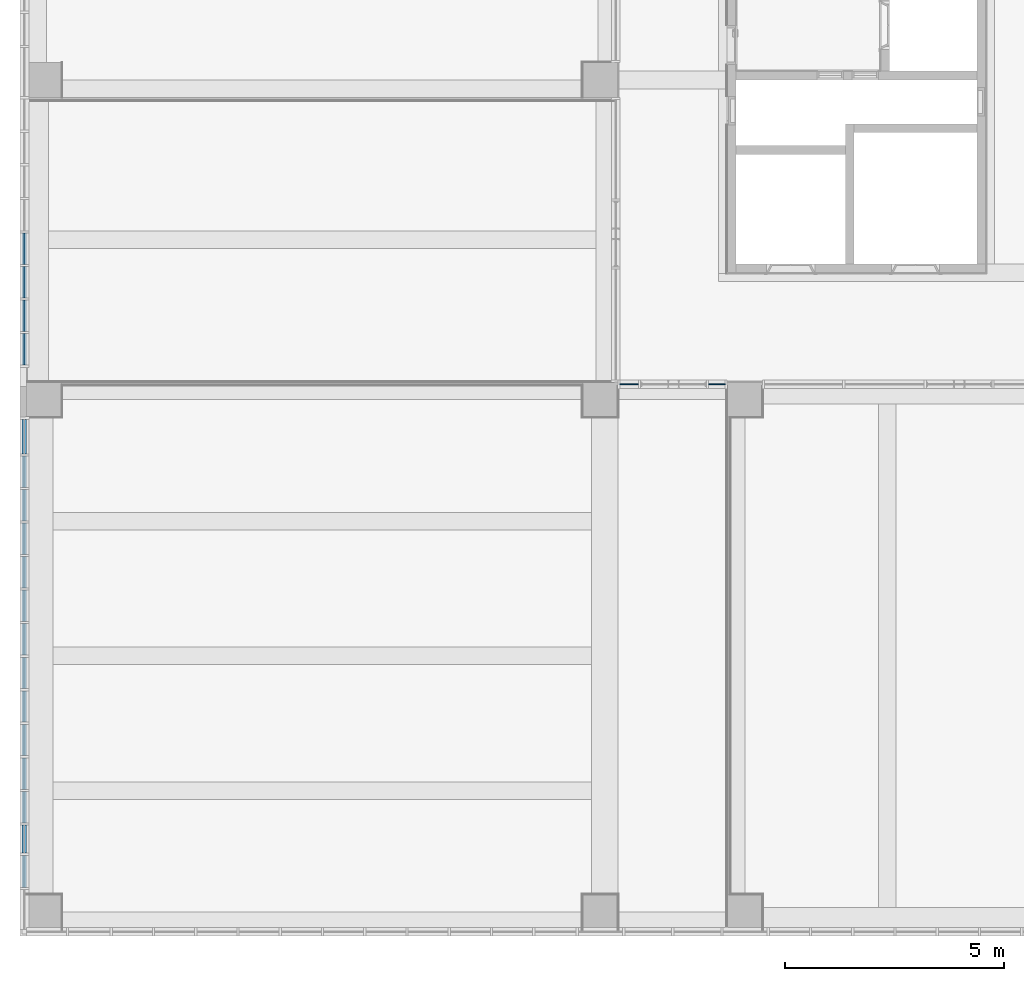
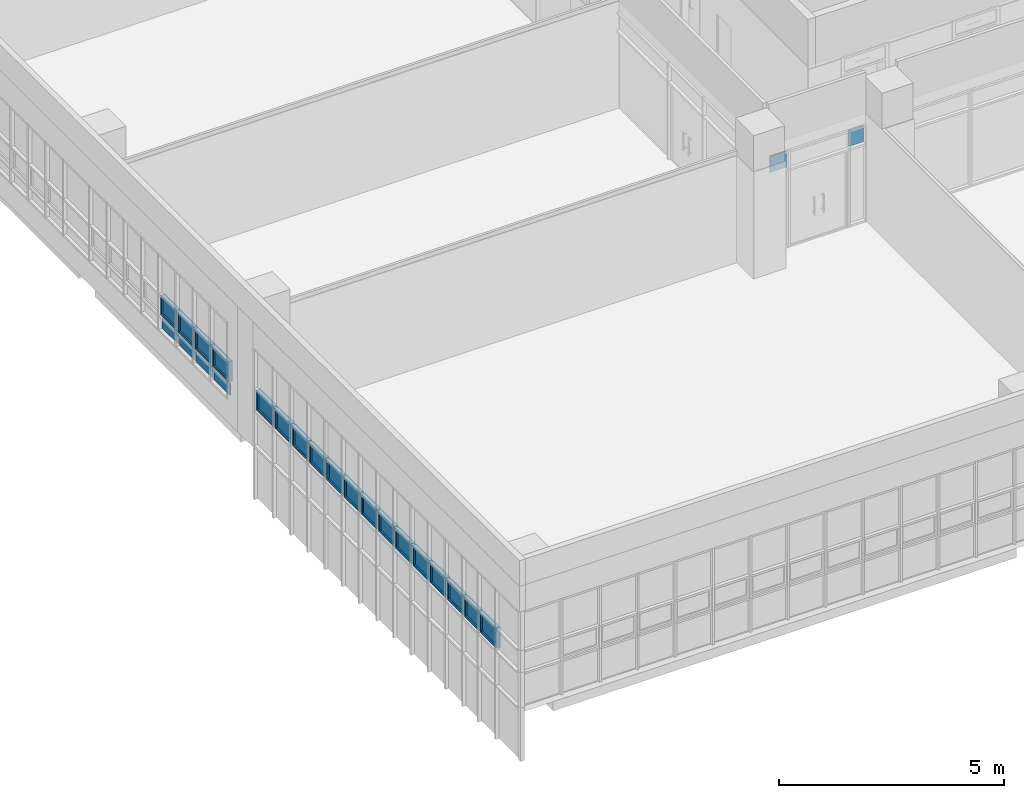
# One storey, part 35 of 81: 24 plates, 3 elements without a shape of their own.
"""IFC2X3 building model written with IfcOpenShell, lengths in millimetres."""

from ifc_helpers import new_model, entity, si_unit, converted_unit, derived_unit, direction, frame, origin, origin_2d_with_axis, place, context, subcontext, project, spatial, polyline, rectangle, outline, extrude, source, transform, mapped, material, material_list, type_object, type_shapes, element, aggregate, save


model = new_model("IFC2X3")

# Units and contexts
model_context = context("Model", 3, precision=0.01, world=origin(), true_north=direction((6.123031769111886e-17, 1.0)))
body_context = subcontext(model_context, "Body", "Model", "MODEL_VIEW")
ifc_project = project(units=[si_unit("LENGTHUNIT", "METRE", prefix="MILLI"), si_unit("AREAUNIT", "SQUARE_METRE"), si_unit("VOLUMEUNIT", "CUBIC_METRE"), converted_unit("PLANEANGLEUNIT", "DEGREE", entity("IfcRatioMeasure", 0.017453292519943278), si_unit("PLANEANGLEUNIT", "RADIAN"), dimensions=[0, 0, 0, 0, 0, 0, 0]), si_unit("MASSUNIT", "GRAM", prefix="KILO"), derived_unit("MASSDENSITYUNIT", [(si_unit("MASSUNIT", "GRAM", prefix="KILO"), 1), (si_unit("LENGTHUNIT", "METRE"), -3)]), derived_unit("MOMENTOFINERTIAUNIT", [(si_unit("LENGTHUNIT", "METRE"), 4)]), si_unit("TIMEUNIT", "SECOND"), si_unit("FREQUENCYUNIT", "HERTZ"), si_unit("THERMODYNAMICTEMPERATUREUNIT", "DEGREE_CELSIUS"), derived_unit("THERMALTRANSMITTANCEUNIT", [(si_unit("MASSUNIT", "GRAM", prefix="KILO"), 1), (si_unit("THERMODYNAMICTEMPERATUREUNIT", "KELVIN"), -1), (si_unit("TIMEUNIT", "SECOND"), -3)]), derived_unit("VOLUMETRICFLOWRATEUNIT", [(si_unit("LENGTHUNIT", "METRE"), 3), (si_unit("TIMEUNIT", "SECOND"), -1)]), derived_unit("MASSFLOWRATEUNIT", [(si_unit("MASSUNIT", "GRAM", prefix="KILO"), 1), (si_unit("TIMEUNIT", "SECOND"), -1)]), derived_unit("ROTATIONALFREQUENCYUNIT", [(si_unit("TIMEUNIT", "SECOND"), -1)]), si_unit("ELECTRICCURRENTUNIT", "AMPERE"), si_unit("ELECTRICVOLTAGEUNIT", "VOLT"), si_unit("POWERUNIT", "WATT"), si_unit("FORCEUNIT", "NEWTON", prefix="KILO"), si_unit("ILLUMINANCEUNIT", "LUX"), si_unit("LUMINOUSFLUXUNIT", "LUMEN"), si_unit("LUMINOUSINTENSITYUNIT", "CANDELA"), derived_unit("USERDEFINED", [(si_unit("MASSUNIT", "GRAM", prefix="KILO"), -1), (si_unit("LENGTHUNIT", "METRE"), -2), (si_unit("TIMEUNIT", "SECOND"), 3), (si_unit("LUMINOUSFLUXUNIT", "LUMEN"), 1)]), derived_unit("SOUNDPOWERUNIT", [(si_unit("MASSUNIT", "GRAM", prefix="KILO"), 1), (si_unit("LENGTHUNIT", "METRE"), 2), (si_unit("TIMEUNIT", "SECOND"), -3)]), derived_unit("SOUNDPRESSUREUNIT", [(si_unit("MASSUNIT", "GRAM", prefix="KILO"), 1), (si_unit("LENGTHUNIT", "METRE"), -1), (si_unit("TIMEUNIT", "SECOND"), -2)]), derived_unit("LINEARVELOCITYUNIT", [(si_unit("LENGTHUNIT", "METRE"), 1), (si_unit("TIMEUNIT", "SECOND"), -1)]), si_unit("PRESSUREUNIT", "PASCAL"), derived_unit("USERDEFINED", [(si_unit("LENGTHUNIT", "METRE"), -2), (si_unit("MASSUNIT", "GRAM", prefix="KILO"), 1), (si_unit("TIMEUNIT", "SECOND"), -2)]), derived_unit("LINEARFORCEUNIT", [(si_unit("MASSUNIT", "GRAM", prefix="KILO"), 1), (si_unit("LENGTHUNIT", "METRE"), 1), (si_unit("TIMEUNIT", "SECOND"), -2), (si_unit("LENGTHUNIT", "METRE"), -1)]), derived_unit("PLANARFORCEUNIT", [(si_unit("MASSUNIT", "GRAM", prefix="KILO"), 1), (si_unit("LENGTHUNIT", "METRE"), 1), (si_unit("TIMEUNIT", "SECOND"), -2), (si_unit("LENGTHUNIT", "METRE"), -2)])], contexts=[model_context])

# Site, building, storey
site_placement = place(None, frame((-14167.972527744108, -657.2125860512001, 0.0)))
site = spatial("IfcSite", under=ifc_project, at=site_placement, Name="Default", CompositionType="ELEMENT")
building_placement = place(site_placement, origin())
building = spatial("IfcBuilding", under=site, at=building_placement, Name="Sample Building", CompositionType="ELEMENT")
storey_placement = place(building_placement, frame((0.0, 0.0, 13400.0)))
storey = spatial("IfcBuildingStorey", under=building, at=storey_placement, Name="지상 4층", CompositionType="ELEMENT", Elevation=13400.00000000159)

# Curtain wall, plates
curtain_wall_type = type_object("IfcCurtainWallType", Name="커튼월:CW112-스테인리스 스틸 커튼월", PredefinedType="NOTDEFINED")
curtain_wall_1_placement = place(storey_placement, frame((0.0, 0.0, -13400.0)))
curtain_wall_1 = element("IfcCurtainWall", 1, at=curtain_wall_1_placement, inside=storey, type_object=curtain_wall_type, Name="커튼월:CW112-스테인리스 스틸 커튼월", ObjectType="커튼월:CW112-스테인리스 스틸 커튼월")
ifc_material_1 = material(Name="KBIMS-유리")
ifc_material_2 = material(Name="KBIMS-알루미늄")
ifc_material_list_1 = material_list([ifc_material_1, ifc_material_2])
ifc_material_list_2 = material_list([ifc_material_1, ifc_material_2])
plate_type_1 = type_object("IfcPlateType", Name="CW410-프로젝트 창:CW410-프로젝트 창 (하부개폐)", PredefinedType="CURTAIN_PANEL", material=ifc_material_list_2)
shared_shape_1 = source(origin(), body_context, "Body", "SweptSolid", [
    extrude(rectangle(XDim=616.0000000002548, YDim=23.999999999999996, at=origin_2d_with_axis()), frame((0.0, -0.04999999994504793, 50.0), z_axis=(0.0, 0.0, 1.0), x_axis=(-1.0, 0.0, 0.0)), (0.0, 0.0, 1.0), 450.0000000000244),
    extrude(outline(polyline([(-358.0, -275.0), (358.0, -275.0), (358.0, 275.0), (-358.0, 275.0), (-358.0, -275.0)]), holes=[polyline([(-308.0, -225.0), (-308.0, 225.0), (308.0, 225.0), (308.0, -225.0), (-308.0, -225.0)])]), frame((0.0, -50.04999999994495, 275.0), z_axis=(0.0, 1.0, 0.0), x_axis=(1.0, 0.0, 0.0)), (0.0, 0.0, 1.0), 99.99999999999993),
])
type_shapes(plate_type_1, [shared_shape_1])
plate_1_placement = place(curtain_wall_1_placement, frame((14017.955105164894, 11012.81770709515, 14425.0), z_axis=(0.0, 0.0, 1.0), x_axis=(0.0, -1.0, 0.0)))
plate_1 = element("IfcPlate", 2, at=plate_1_placement, type_object=plate_type_1, material=ifc_material_list_1, Name="CW410-프로젝트 창:CW410-프로젝트 창 (하부개폐)", ObjectType="CW410-프로젝트 창:CW410-프로젝트 창 (하부개폐)", context=body_context, shape_type="MappedRepresentation", body=[
    mapped(shared_shape_1, transform((0.0, 0.0, 0.0), scale=1.0)),
])
ifc_material_list_3 = material_list([ifc_material_1, ifc_material_2])
plate_2_placement = place(curtain_wall_1_placement, frame((14017.955105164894, 10246.817707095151, 14425.0), z_axis=(0.0, 0.0, 1.0), x_axis=(0.0, -1.0, 0.0)))
plate_2 = element("IfcPlate", 3, at=plate_2_placement, type_object=plate_type_1, material=ifc_material_list_3, Name="CW410-프로젝트 창:CW410-프로젝트 창 (하부개폐)", ObjectType="CW410-프로젝트 창:CW410-프로젝트 창 (하부개폐)", context=body_context, shape_type="MappedRepresentation", body=[
    mapped(shared_shape_1, transform((0.0, 0.0, 0.0), scale=1.0)),
])
ifc_material_list_4 = material_list([ifc_material_1, ifc_material_2])
plate_3_placement = place(curtain_wall_1_placement, frame((14017.95510516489, 9480.817707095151, 14425.0), z_axis=(0.0, 0.0, 1.0), x_axis=(0.0, -1.0, 0.0)))
plate_3 = element("IfcPlate", 4, at=plate_3_placement, type_object=plate_type_1, material=ifc_material_list_4, Name="CW410-프로젝트 창:CW410-프로젝트 창 (하부개폐)", ObjectType="CW410-프로젝트 창:CW410-프로젝트 창 (하부개폐)", context=body_context, shape_type="MappedRepresentation", body=[
    mapped(shared_shape_1, transform((0.0, 0.0, 0.0), scale=1.0)),
])
ifc_material_list_5 = material_list([ifc_material_1, ifc_material_2])
plate_4_placement = place(curtain_wall_1_placement, frame((14017.95510516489, 8714.817707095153, 14425.0), z_axis=(0.0, 0.0, 1.0), x_axis=(0.0, -1.0, 0.0)))
plate_4 = element("IfcPlate", 5, at=plate_4_placement, type_object=plate_type_1, material=ifc_material_list_5, Name="CW410-프로젝트 창:CW410-프로젝트 창 (하부개폐)", ObjectType="CW410-프로젝트 창:CW410-프로젝트 창 (하부개폐)", context=body_context, shape_type="MappedRepresentation", body=[
    mapped(shared_shape_1, transform((0.0, 0.0, 0.0), scale=1.0)),
])
ifc_material_list_6 = material_list([ifc_material_1, ifc_material_2])
plate_5_placement = place(curtain_wall_1_placement, frame((14017.955105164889, 7948.817707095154, 14425.0), z_axis=(0.0, 0.0, 1.0), x_axis=(0.0, -1.0, 0.0)))
plate_5 = element("IfcPlate", 6, at=plate_5_placement, type_object=plate_type_1, material=ifc_material_list_6, Name="CW410-프로젝트 창:CW410-프로젝트 창 (하부개폐)", ObjectType="CW410-프로젝트 창:CW410-프로젝트 창 (하부개폐)", context=body_context, shape_type="MappedRepresentation", body=[
    mapped(shared_shape_1, transform((0.0, 0.0, 0.0), scale=1.0)),
])
ifc_material_list_7 = material_list([ifc_material_1, ifc_material_2])
plate_6_placement = place(curtain_wall_1_placement, frame((14017.955105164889, 7182.817707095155, 14425.0), z_axis=(0.0, 0.0, 1.0), x_axis=(0.0, -1.0, 0.0)))
plate_6 = element("IfcPlate", 7, at=plate_6_placement, type_object=plate_type_1, material=ifc_material_list_7, Name="CW410-프로젝트 창:CW410-프로젝트 창 (하부개폐)", ObjectType="CW410-프로젝트 창:CW410-프로젝트 창 (하부개폐)", context=body_context, shape_type="MappedRepresentation", body=[
    mapped(shared_shape_1, transform((0.0, 0.0, 0.0), scale=1.0)),
])
ifc_material_list_8 = material_list([ifc_material_1, ifc_material_2])
plate_7_placement = place(curtain_wall_1_placement, frame((14017.955105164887, 6416.817707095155, 14425.0), z_axis=(0.0, 0.0, 1.0), x_axis=(0.0, -1.0, 0.0)))
plate_7 = element("IfcPlate", 8, at=plate_7_placement, type_object=plate_type_1, material=ifc_material_list_8, Name="CW410-프로젝트 창:CW410-프로젝트 창 (하부개폐)", ObjectType="CW410-프로젝트 창:CW410-프로젝트 창 (하부개폐)", context=body_context, shape_type="MappedRepresentation", body=[
    mapped(shared_shape_1, transform((0.0, 0.0, 0.0), scale=1.0)),
])
ifc_material_list_9 = material_list([ifc_material_1, ifc_material_2])
plate_8_placement = place(curtain_wall_1_placement, frame((14017.955105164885, 5650.817707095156, 14425.0), z_axis=(0.0, 0.0, 1.0), x_axis=(0.0, -1.0, 0.0)))
plate_8 = element("IfcPlate", 9, at=plate_8_placement, type_object=plate_type_1, material=ifc_material_list_9, Name="CW410-프로젝트 창:CW410-프로젝트 창 (하부개폐)", ObjectType="CW410-프로젝트 창:CW410-프로젝트 창 (하부개폐)", context=body_context, shape_type="MappedRepresentation", body=[
    mapped(shared_shape_1, transform((0.0, 0.0, 0.0), scale=1.0)),
])
ifc_material_list_10 = material_list([ifc_material_1, ifc_material_2])
plate_9_placement = place(curtain_wall_1_placement, frame((14017.955105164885, 4884.8177070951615, 14425.0), z_axis=(0.0, 0.0, 1.0), x_axis=(0.0, -1.0, 0.0)))
plate_9 = element("IfcPlate", 10, at=plate_9_placement, type_object=plate_type_1, material=ifc_material_list_10, Name="CW410-프로젝트 창:CW410-프로젝트 창 (하부개폐)", ObjectType="CW410-프로젝트 창:CW410-프로젝트 창 (하부개폐)", context=body_context, shape_type="MappedRepresentation", body=[
    mapped(shared_shape_1, transform((0.0, 0.0, 0.0), scale=1.0)),
])
ifc_material_list_11 = material_list([ifc_material_1, ifc_material_2])
plate_10_placement = place(curtain_wall_1_placement, frame((14017.955105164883, 4118.817707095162, 14425.0), z_axis=(0.0, 0.0, 1.0), x_axis=(0.0, -1.0, 0.0)))
plate_10 = element("IfcPlate", 11, at=plate_10_placement, type_object=plate_type_1, material=ifc_material_list_11, Name="CW410-프로젝트 창:CW410-프로젝트 창 (하부개폐)", ObjectType="CW410-프로젝트 창:CW410-프로젝트 창 (하부개폐)", context=body_context, shape_type="MappedRepresentation", body=[
    mapped(shared_shape_1, transform((0.0, 0.0, 0.0), scale=1.0)),
])
ifc_material_list_12 = material_list([ifc_material_1, ifc_material_2])
plate_11_placement = place(curtain_wall_1_placement, frame((14017.955105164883, 3352.8177070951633, 14425.0), z_axis=(0.0, 0.0, 1.0), x_axis=(0.0, -1.0, 0.0)))
plate_11 = element("IfcPlate", 12, at=plate_11_placement, type_object=plate_type_1, material=ifc_material_list_12, Name="CW410-프로젝트 창:CW410-프로젝트 창 (하부개폐)", ObjectType="CW410-프로젝트 창:CW410-프로젝트 창 (하부개폐)", context=body_context, shape_type="MappedRepresentation", body=[
    mapped(shared_shape_1, transform((0.0, 0.0, 0.0), scale=1.0)),
])
ifc_material_list_13 = material_list([ifc_material_1, ifc_material_2])
ifc_material_list_14 = material_list([ifc_material_1, ifc_material_2])
plate_type_2 = type_object("IfcPlateType", Name="CW410-프로젝트 창:CW410-프로젝트 창 (하부개폐)", PredefinedType="CURTAIN_PANEL", material=ifc_material_list_14)
shared_shape_2 = source(origin(), body_context, "Body", "SweptSolid", [
    extrude(rectangle(XDim=542.000000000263, YDim=23.999999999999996, at=origin_2d_with_axis()), frame((0.0, -0.04999999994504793, 50.0), z_axis=(0.0, 0.0, 1.0), x_axis=(-1.0, 0.0, 0.0)), (0.0, 0.0, 1.0), 450.0000000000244),
    extrude(outline(polyline([(-321.0, -275.0), (321.0, -275.0), (321.0, 275.0), (-321.0, 275.0), (-321.0, -275.0)]), holes=[polyline([(-271.0, -225.0), (-271.0, 225.0), (271.0, 225.0), (271.0, -225.0), (-271.0, -225.0)])]), frame((0.0, -50.04999999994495, 275.0), z_axis=(0.0, 1.0, 0.0), x_axis=(1.0, 0.0, 0.0)), (0.0, 0.0, 1.0), 99.99999999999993),
])
type_shapes(plate_type_2, [shared_shape_2])
plate_12_placement = place(curtain_wall_1_placement, frame((14017.955105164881, 2623.8177070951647, 14425.0), z_axis=(0.0, 0.0, 1.0), x_axis=(0.0, -1.0, 0.0)))
plate_12 = element("IfcPlate", 13, at=plate_12_placement, type_object=plate_type_2, material=ifc_material_list_13, Name="CW410-프로젝트 창:CW410-프로젝트 창 (하부개폐)", ObjectType="CW410-프로젝트 창:CW410-프로젝트 창 (하부개폐)", context=body_context, shape_type="MappedRepresentation", body=[
    mapped(shared_shape_2, transform((0.0, 0.0, 0.0), scale=1.0)),
])
ifc_material_list_15 = material_list([ifc_material_1, ifc_material_2])
ifc_material_list_16 = material_list([ifc_material_1, ifc_material_2])
plate_type_3 = type_object("IfcPlateType", Name="CW410-프로젝트 창:CW410-프로젝트 창 (하부개폐)", PredefinedType="CURTAIN_PANEL", material=ifc_material_list_16)
shared_shape_3 = source(origin(), body_context, "Body", "SweptSolid", [
    extrude(rectangle(XDim=633.0000000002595, YDim=23.999999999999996, at=origin_2d_with_axis()), frame((0.0, -0.04999999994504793, 50.0), z_axis=(0.0, 0.0, 1.0), x_axis=(-1.0, 0.0, 0.0)), (0.0, 0.0, 1.0), 450.0000000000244),
    extrude(outline(polyline([(-366.4999999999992, -275.0), (366.4999999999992, -275.0), (366.4999999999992, 275.0), (-366.4999999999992, 275.0), (-366.4999999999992, -275.0)]), holes=[polyline([(-316.50000000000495, -225.0), (-316.500000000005, 225.0), (316.5000000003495, 225.0), (316.50000000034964, -225.0), (-316.50000000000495, -225.0)])]), frame((0.0, -50.04999999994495, 275.0), z_axis=(0.0, 1.0, 0.0), x_axis=(1.0, 0.0, 0.0)), (0.0, 0.0, 1.0), 99.99999999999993),
])
type_shapes(plate_type_3, [shared_shape_3])
plate_13_placement = place(curtain_wall_1_placement, frame((14017.955105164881, 1886.3177070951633, 14425.0), z_axis=(0.0, 0.0, 1.0), x_axis=(0.0, -1.0, 0.0)))
plate_13 = element("IfcPlate", 14, at=plate_13_placement, type_object=plate_type_3, material=ifc_material_list_15, Name="CW410-프로젝트 창:CW410-프로젝트 창 (하부개폐)", ObjectType="CW410-프로젝트 창:CW410-프로젝트 창 (하부개폐)", context=body_context, shape_type="MappedRepresentation", body=[
    mapped(shared_shape_3, transform((0.0, 0.0, 0.0), scale=1.0)),
])
ifc_material_list_17 = material_list([ifc_material_1, ifc_material_2])
ifc_material_list_18 = material_list([ifc_material_1, ifc_material_2])
plate_type_4 = type_object("IfcPlateType", Name="CW410-프로젝트 창:CW410-프로젝트 창 (하부개폐)", PredefinedType="CURTAIN_PANEL", material=ifc_material_list_18)
shared_shape_4 = source(origin(), body_context, "Body", "SweptSolid", [
    extrude(rectangle(XDim=686.3948789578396, YDim=23.999999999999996, at=origin_2d_with_axis()), frame((0.0, -0.04999999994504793, 50.0), z_axis=(0.0, 0.0, 1.0), x_axis=(-1.0, 0.0, 0.0)), (0.0, 0.0, 1.0), 450.00000000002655),
    extrude(outline(polyline([(-393.1974394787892, -275.0), (393.1974394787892, -275.0), (393.1974394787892, 275.0), (-393.1974394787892, 275.0), (-393.1974394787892, -275.0)]), holes=[polyline([(-343.197439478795, -225.0), (-343.19743947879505, 225.0), (343.1974394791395, 225.0), (343.19743947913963, -225.0), (-343.197439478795, -225.0)])]), frame((0.0, -50.04999999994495, 275.0), z_axis=(0.0, 1.0, 0.0), x_axis=(1.0, 0.0, 0.0)), (0.0, 0.0, 1.0), 99.99999999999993),
])
type_shapes(plate_type_4, [shared_shape_4])
plate_14_placement = place(curtain_wall_1_placement, frame((14017.955105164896, 11814.015146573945, 14425.0), z_axis=(0.0, 0.0, 1.0), x_axis=(0.0, -1.0, 0.0)))
plate_14 = element("IfcPlate", 15, at=plate_14_placement, type_object=plate_type_4, material=ifc_material_list_17, Name="CW410-프로젝트 창:CW410-프로젝트 창 (하부개폐)", ObjectType="CW410-프로젝트 창:CW410-프로젝트 창 (하부개폐)", context=body_context, shape_type="MappedRepresentation", body=[
    mapped(shared_shape_4, transform((0.0, 0.0, 0.0), scale=1.0)),
])
aggregate(curtain_wall_1, [plate_14, plate_1, plate_2, plate_3, plate_4, plate_5, plate_6, plate_7, plate_8, plate_9, plate_10, plate_11, plate_12, plate_13])

curtain_wall_2_placement = place(storey_placement, frame((0.0, 0.0, -13400.0)))
curtain_wall_2 = element("IfcCurtainWall", 16, at=curtain_wall_2_placement, inside=storey, type_object=curtain_wall_type, Name="커튼월:CW112-스테인리스 스틸 커튼월", ObjectType="커튼월:CW112-스테인리스 스틸 커튼월")
ifc_material_3 = material(Name="KBIMS-로이유리(코팅)")
plate_type_5 = type_object("IfcPlateType", Name="CW300-THK24.Low-e coating glass:CW300-THK24.Low-e coating glass", PredefinedType="CURTAIN_PANEL", material=ifc_material_3)
shared_shape_5 = source(origin(), body_context, "Body", "SweptSolid", [
    extrude(rectangle(XDim=716.4999999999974, YDim=24.000000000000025, at=origin_2d_with_axis()), frame((0.0, 0.0, 0.0), z_axis=(0.0, 0.0, 1.0), x_axis=(-1.0, 0.0, 0.0)), (0.0, 0.0, 1.0), 324.9999999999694),
])
type_shapes(plate_type_5, [shared_shape_5])
plate_15_placement = place(curtain_wall_2_placement, frame((14018.570555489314, 16104.56770709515, 14050.0), z_axis=(0.0, 0.0, 1.0), x_axis=(0.0, -1.0, 0.0)))
plate_15 = element("IfcPlate", 17, at=plate_15_placement, type_object=plate_type_5, material=ifc_material_3, Name="CW300-THK24.Low-e coating glass:CW300-THK24.Low-e coating glass", ObjectType="CW300-THK24.Low-e coating glass:CW300-THK24.Low-e coating glass", context=body_context, shape_type="MappedRepresentation", body=[
    mapped(shared_shape_5, transform((0.0, 0.0, 0.0), scale=1.0)),
])
plate_16_placement = place(curtain_wall_2_placement, frame((14018.570555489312, 15338.067707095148, 14050.0), z_axis=(0.0, 0.0, 1.0), x_axis=(0.0, -1.0, 0.0)))
plate_16 = element("IfcPlate", 18, at=plate_16_placement, type_object=plate_type_5, material=ifc_material_3, Name="CW300-THK24.Low-e coating glass:CW300-THK24.Low-e coating glass", ObjectType="CW300-THK24.Low-e coating glass:CW300-THK24.Low-e coating glass", context=body_context, shape_type="MappedRepresentation", body=[
    mapped(shared_shape_5, transform((0.0, 0.0, 0.0), scale=1.0)),
])
plate_17_placement = place(curtain_wall_2_placement, frame((14018.570555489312, 14571.567707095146, 14050.0), z_axis=(0.0, 0.0, 1.0), x_axis=(0.0, -1.0, 0.0)))
plate_17 = element("IfcPlate", 19, at=plate_17_placement, type_object=plate_type_5, material=ifc_material_3, Name="CW300-THK24.Low-e coating glass:CW300-THK24.Low-e coating glass", ObjectType="CW300-THK24.Low-e coating glass:CW300-THK24.Low-e coating glass", context=body_context, shape_type="MappedRepresentation", body=[
    mapped(shared_shape_5, transform((0.0, 0.0, 0.0), scale=1.0)),
])
plate_18_placement = place(curtain_wall_2_placement, frame((14018.57055548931, 13805.067707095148, 14050.0), z_axis=(0.0, 0.0, 1.0), x_axis=(0.0, -1.0, 0.0)))
plate_18 = element("IfcPlate", 20, at=plate_18_placement, type_object=plate_type_5, material=ifc_material_3, Name="CW300-THK24.Low-e coating glass:CW300-THK24.Low-e coating glass", ObjectType="CW300-THK24.Low-e coating glass:CW300-THK24.Low-e coating glass", context=body_context, shape_type="MappedRepresentation", body=[
    mapped(shared_shape_5, transform((0.0, 0.0, 0.0), scale=1.0)),
])
ifc_material_list_19 = material_list([ifc_material_1, ifc_material_2])
ifc_material_list_20 = material_list([ifc_material_1, ifc_material_2])
plate_type_6 = type_object("IfcPlateType", Name="CW410-프로젝트 창:CW410-프로젝트 창 (하부개폐)", PredefinedType="CURTAIN_PANEL", material=ifc_material_list_20)
shared_shape_6 = source(origin(), body_context, "Body", "SweptSolid", [
    extrude(rectangle(XDim=616.500000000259, YDim=23.999999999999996, at=origin_2d_with_axis()), frame((0.0, -0.04999999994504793, 50.0), z_axis=(0.0, 0.0, 1.0), x_axis=(-1.0, 0.0, 0.0)), (0.0, 0.0, 1.0), 450.00000000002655),
    extrude(outline(polyline([(-358.2499999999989, -275.0), (358.2499999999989, -275.0), (358.2499999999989, 275.0), (-358.2499999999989, 275.0), (-358.2499999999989, -275.0)]), holes=[polyline([(-308.25000000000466, -225.0), (-308.2500000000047, 225.0), (308.2500000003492, 225.0), (308.25000000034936, -225.0), (-308.25000000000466, -225.0)])]), frame((0.0, -50.04999999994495, 275.0), z_axis=(0.0, 1.0, 0.0), x_axis=(1.0, 0.0, 0.0)), (0.0, 0.0, 1.0), 99.99999999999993),
])
type_shapes(plate_type_6, [shared_shape_6])
plate_19_placement = place(curtain_wall_2_placement, frame((14018.570555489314, 16104.56770709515, 14425.0), z_axis=(0.0, 0.0, 1.0), x_axis=(0.0, -1.0, 0.0)))
plate_19 = element("IfcPlate", 21, at=plate_19_placement, type_object=plate_type_6, material=ifc_material_list_19, Name="CW410-프로젝트 창:CW410-프로젝트 창 (하부개폐)", ObjectType="CW410-프로젝트 창:CW410-프로젝트 창 (하부개폐)", context=body_context, shape_type="MappedRepresentation", body=[
    mapped(shared_shape_6, transform((0.0, 0.0, 0.0), scale=1.0)),
])
ifc_material_list_21 = material_list([ifc_material_1, ifc_material_2])
plate_20_placement = place(curtain_wall_2_placement, frame((14018.570555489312, 15338.06770709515, 14425.0), z_axis=(0.0, 0.0, 1.0), x_axis=(0.0, -1.0, 0.0)))
plate_20 = element("IfcPlate", 22, at=plate_20_placement, type_object=plate_type_6, material=ifc_material_list_21, Name="CW410-프로젝트 창:CW410-프로젝트 창 (하부개폐)", ObjectType="CW410-프로젝트 창:CW410-프로젝트 창 (하부개폐)", context=body_context, shape_type="MappedRepresentation", body=[
    mapped(shared_shape_6, transform((0.0, 0.0, 0.0), scale=1.0)),
])
ifc_material_list_22 = material_list([ifc_material_1, ifc_material_2])
plate_21_placement = place(curtain_wall_2_placement, frame((14018.570555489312, 14571.56770709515, 14425.0), z_axis=(0.0, 0.0, 1.0), x_axis=(0.0, -1.0, 0.0)))
plate_21 = element("IfcPlate", 23, at=plate_21_placement, type_object=plate_type_6, material=ifc_material_list_22, Name="CW410-프로젝트 창:CW410-프로젝트 창 (하부개폐)", ObjectType="CW410-프로젝트 창:CW410-프로젝트 창 (하부개폐)", context=body_context, shape_type="MappedRepresentation", body=[
    mapped(shared_shape_6, transform((0.0, 0.0, 0.0), scale=1.0)),
])
ifc_material_list_23 = material_list([ifc_material_1, ifc_material_2])
plate_22_placement = place(curtain_wall_2_placement, frame((14018.57055548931, 13805.067707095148, 14425.0), z_axis=(0.0, 0.0, 1.0), x_axis=(0.0, -1.0, 0.0)))
plate_22 = element("IfcPlate", 24, at=plate_22_placement, type_object=plate_type_6, material=ifc_material_list_23, Name="CW410-프로젝트 창:CW410-프로젝트 창 (하부개폐)", ObjectType="CW410-프로젝트 창:CW410-프로젝트 창 (하부개폐)", context=body_context, shape_type="MappedRepresentation", body=[
    mapped(shared_shape_6, transform((0.0, 0.0, 0.0), scale=1.0)),
])
aggregate(curtain_wall_2, [plate_15, plate_16, plate_17, plate_18, plate_19, plate_20, plate_21, plate_22])

curtain_wall_3_placement = place(storey_placement, frame((0.0, 0.0, -13400.0)))
curtain_wall_3 = element("IfcCurtainWall", 25, at=curtain_wall_3_placement, inside=storey, type_object=curtain_wall_type, Name="커튼월:CW112-스테인리스 스틸 커튼월", ObjectType="커튼월:CW112-스테인리스 스틸 커튼월")
plate_type_7 = type_object("IfcPlateType", Name="CW300-THK24.Low-e coating glass:CW300-THK24.Low-e coating glass", PredefinedType="CURTAIN_PANEL", material=ifc_material_3)
shared_shape_7 = source(origin(), body_context, "Body", "SweptSolid", [
    extrude(rectangle(XDim=24.000000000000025, YDim=376.8639834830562, at=origin_2d_with_axis()), frame((0.0, 0.0, 0.0), z_axis=(0.0, 0.0, 1.0), x_axis=(0.0, 1.0, 0.0)), (0.0, 0.0, 1.0), 444.9999999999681),
])
type_shapes(plate_type_7, [shared_shape_7])
plate_23_placement = place(curtain_wall_3_placement, frame((29829.523122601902, 13012.212307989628, 15605.0), z_axis=(0.0, 0.0, 1.0), x_axis=(-1.0, 0.0, 0.0)))
plate_23 = element("IfcPlate", 26, at=plate_23_placement, type_object=plate_type_7, material=ifc_material_3, Name="CW300-THK24.Low-e coating glass:CW300-THK24.Low-e coating glass", ObjectType="CW300-THK24.Low-e coating glass:CW300-THK24.Low-e coating glass", context=body_context, shape_type="MappedRepresentation", body=[
    mapped(shared_shape_7, transform((0.0, 0.0, 0.0), scale=1.0)),
])
plate_type_8 = type_object("IfcPlateType", Name="CW300-THK24.Low-e coating glass:CW300-THK24.Low-e coating glass", PredefinedType="CURTAIN_PANEL", material=ifc_material_3)
shared_shape_8 = source(origin(), body_context, "Body", "SweptSolid", [
    extrude(rectangle(XDim=24.000000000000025, YDim=423.1707092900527, at=origin_2d_with_axis()), frame((0.0, 0.0, 0.0), z_axis=(0.0, 0.0, 1.0), x_axis=(0.0, 1.0, 0.0)), (0.0, 0.0, 1.0), 444.9999999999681),
])
type_shapes(plate_type_8, [shared_shape_8])
plate_24_placement = place(curtain_wall_3_placement, frame((27829.50577621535, 13012.212307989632, 15605.0), z_axis=(0.0, 0.0, 1.0), x_axis=(-1.0, 0.0, 0.0)))
plate_24 = element("IfcPlate", 27, at=plate_24_placement, type_object=plate_type_8, material=ifc_material_3, Name="CW300-THK24.Low-e coating glass:CW300-THK24.Low-e coating glass", ObjectType="CW300-THK24.Low-e coating glass:CW300-THK24.Low-e coating glass", context=body_context, shape_type="MappedRepresentation", body=[
    mapped(shared_shape_8, transform((0.0, 0.0, 0.0), scale=1.0)),
])
aggregate(curtain_wall_3, [plate_23, plate_24])

save(model, "model.ifc")
